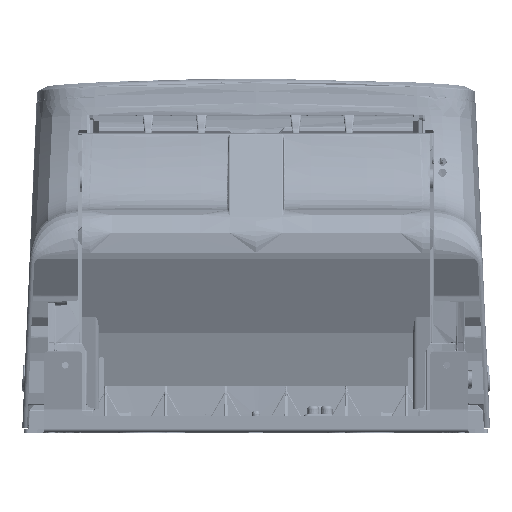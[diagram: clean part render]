
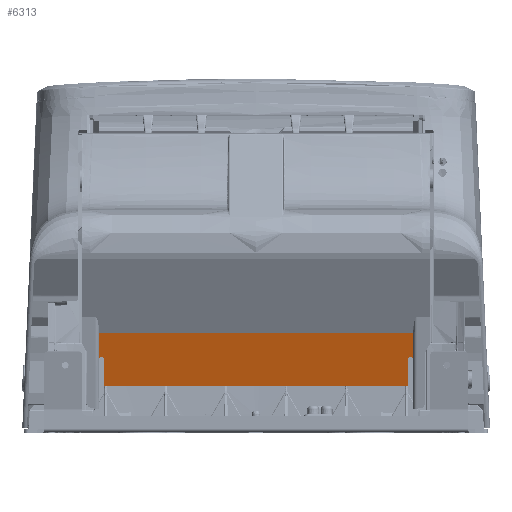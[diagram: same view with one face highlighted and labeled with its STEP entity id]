
A CAD part, front view. The second image highlights one B-rep face of the part: STEP entity #6313.
In plain terms, the highlighted planar face has unit normal (0, -0.954, -0.299).
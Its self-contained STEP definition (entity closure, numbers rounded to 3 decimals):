
#6313 = ADVANCED_FACE ( 'NONE', ( #231792 ), #139258, .T. ) ;
#27853 = CARTESIAN_POINT ( 'NONE',  ( -112.643, -168.608, 55.327 ) ) ;
#29847 = CARTESIAN_POINT ( 'NONE',  ( 110.937, -168.126, 53.789 ) ) ;
#35270 = VERTEX_POINT ( 'NONE', #130237 ) ;
#37268 = CARTESIAN_POINT ( 'NONE',  ( -114.756, -168.309, 54.374 ) ) ;
#48150 = ORIENTED_EDGE ( 'NONE', *, *, #149469, .F. ) ;
#61496 = CARTESIAN_POINT ( 'NONE',  ( 110.9, -161.884, 33.87 ) ) ;
#78137 = DIRECTION ( 'NONE',  ( 1., 0., 0. ) ) ;
#89495 = B_SPLINE_CURVE_WITH_KNOTS ( 'NONE', 3,
 ( #37268, #419660, #613990, #279490, #569332, #607723, #566194, #324126, #27853, #177576, #228550, #422779, #180709, #620267, #378156, #132860, #572476, #136012 ),
 .UNSPECIFIED., .F., .F.,
 ( 4, 2, 2, 2, 2, 2, 2, 2, 4 ),
 ( 0., 0.125, 0.25, 0.375, 0.5, 0.625, 0.75, 0.875, 1. ),
 .UNSPECIFIED. ) ;
#95484 = DIRECTION ( 'NONE',  ( 1., 0., 0. ) ) ;
#103235 = EDGE_CURVE ( 'NONE', #568988, #523790, #398669, .T. ) ;
#119195 = CARTESIAN_POINT ( 'NONE',  ( 112., -168.544, 55.122 ) ) ;
#125475 = CARTESIAN_POINT ( 'NONE',  ( 111.081, -168.254, 54.198 ) ) ;
#128614 = CARTESIAN_POINT ( 'NONE',  ( 114.152, -168.507, 55.005 ) ) ;
#128944 = ORIENTED_EDGE ( 'NONE', *, *, #491053, .T. ) ;
#130237 = CARTESIAN_POINT ( 'NONE',  ( 110.9, -161.884, 33.87 ) ) ;
#132860 = CARTESIAN_POINT ( 'NONE',  ( -110.936, -168.126, 53.789 ) ) ;
#132969 = DIRECTION ( 'NONE',  ( 0., 0.299, -0.954 ) ) ;
#134561 = ORIENTED_EDGE ( 'NONE', *, *, #319348, .F. ) ;
#136012 = CARTESIAN_POINT ( 'NONE',  ( -110.9, -167.992, 53.361 ) ) ;
#136165 = ORIENTED_EDGE ( 'NONE', *, *, #258684, .F. ) ;
#139258 = PLANE ( 'NONE',  #486960 ) ;
#139862 = CARTESIAN_POINT ( 'NONE',  ( -110.9, -167.992, 53.361 ) ) ;
#140162 = CARTESIAN_POINT ( 'NONE',  ( -110.9, -161.884, 33.87 ) ) ;
#149469 = EDGE_CURVE ( 'NONE', #397829, #598698, #492063, .T. ) ;
#155738 = VECTOR ( 'NONE', #431552, 1000. ) ;
#156569 = DIRECTION ( 'NONE',  ( -0.004, 0.299, -0.954 ) ) ;
#157620 = EDGE_CURVE ( 'NONE', #580773, #523790, #187989, .T. ) ;
#170143 = CARTESIAN_POINT ( 'NONE',  ( 113.539, -168.592, 55.278 ) ) ;
#173444 = CARTESIAN_POINT ( 'NONE',  ( 114.756, -168.309, 54.374 ) ) ;
#176921 = CARTESIAN_POINT ( 'NONE',  ( -114.839, -174.111, 72.888 ) ) ;
#177576 = CARTESIAN_POINT ( 'NONE',  ( -112.206, -168.572, 55.212 ) ) ;
#179565 = CARTESIAN_POINT ( 'NONE',  ( 114.64, -168.368, 54.56 ) ) ;
#180709 = CARTESIAN_POINT ( 'NONE',  ( -111.462, -168.422, 54.733 ) ) ;
#187989 = B_SPLINE_CURVE_WITH_KNOTS ( 'NONE', 3,
 ( #466345, #615977, #29847, #125475, #514122, #224273, #268960, #119195, #313606, #612849, #370756, #364509, #170143, #463225, #128614, #507866, #179565, #373866 ),
 .UNSPECIFIED., .F., .F.,
 ( 4, 2, 2, 2, 2, 2, 2, 2, 4 ),
 ( 0., 0.125, 0.25, 0.375, 0.5, 0.625, 0.75, 0.875, 1. ),
 .UNSPECIFIED. ) ;
#194958 = ORIENTED_EDGE ( 'NONE', *, *, #547701, .T. ) ;
#209813 = ORIENTED_EDGE ( 'NONE', *, *, #433549, .T. ) ;
#214629 = CARTESIAN_POINT ( 'NONE',  ( 114.839, -174.111, 72.888 ) ) ;
#224273 = CARTESIAN_POINT ( 'NONE',  ( 111.461, -168.421, 54.732 ) ) ;
#228550 = CARTESIAN_POINT ( 'NONE',  ( -112.002, -168.544, 55.122 ) ) ;
#231792 = FACE_OUTER_BOUND ( 'NONE', #518278, .T. ) ;
#240459 = CARTESIAN_POINT ( 'NONE',  ( -110.9, -161.884, 33.87 ) ) ;
#255898 = DIRECTION ( 'NONE',  ( 0., -0.299, 0.954 ) ) ;
#258684 = EDGE_CURVE ( 'NONE', #595273, #402179, #622774, .T. ) ;
#268960 = CARTESIAN_POINT ( 'NONE',  ( 111.625, -168.468, 54.879 ) ) ;
#275714 = LINE ( 'NONE', #176921, #630480 ) ;
#279490 = CARTESIAN_POINT ( 'NONE',  ( -114.154, -168.507, 55.004 ) ) ;
#288964 = ORIENTED_EDGE ( 'NONE', *, *, #103235, .F. ) ;
#303714 = LINE ( 'NONE', #61496, #331813 ) ;
#313606 = CARTESIAN_POINT ( 'NONE',  ( 112.205, -168.572, 55.212 ) ) ;
#319348 = EDGE_CURVE ( 'NONE', #598698, #568988, #275714, .T. ) ;
#324126 = CARTESIAN_POINT ( 'NONE',  ( -112.868, -168.615, 55.35 ) ) ;
#327253 = CARTESIAN_POINT ( 'NONE',  ( -110.9, -161.884, 33.87 ) ) ;
#331813 = VECTOR ( 'NONE', #255898, 1000. ) ;
#333665 = DIRECTION ( 'NONE',  ( 0., -0.954, -0.299 ) ) ;
#347964 = CARTESIAN_POINT ( 'NONE',  ( 110.9, -167.992, 53.361 ) ) ;
#351061 = ORIENTED_EDGE ( 'NONE', *, *, #157620, .T. ) ;
#358794 = VECTOR ( 'NONE', #95484, 1000. ) ;
#364509 = CARTESIAN_POINT ( 'NONE',  ( 113.319, -168.607, 55.325 ) ) ;
#370543 = VECTOR ( 'NONE', #156569, 1000. ) ;
#370756 = CARTESIAN_POINT ( 'NONE',  ( 112.866, -168.615, 55.349 ) ) ;
#373866 = CARTESIAN_POINT ( 'NONE',  ( 114.756, -168.309, 54.374 ) ) ;
#378156 = CARTESIAN_POINT ( 'NONE',  ( -111.082, -168.254, 54.199 ) ) ;
#388601 = LINE ( 'NONE', #140162, #358794 ) ;
#397829 = VERTEX_POINT ( 'NONE', #600482 ) ;
#398669 = LINE ( 'NONE', #592984, #370543 ) ;
#402179 = VERTEX_POINT ( 'NONE', #139862 ) ;
#407069 = VECTOR ( 'NONE', #488918, 1000. ) ;
#419660 = CARTESIAN_POINT ( 'NONE',  ( -114.641, -168.367, 54.559 ) ) ;
#422779 = CARTESIAN_POINT ( 'NONE',  ( -111.626, -168.468, 54.881 ) ) ;
#431552 = DIRECTION ( 'NONE',  ( 0., -0.299, 0.954 ) ) ;
#433549 = EDGE_CURVE ( 'NONE', #397829, #402179, #89495, .T. ) ;
#463225 = CARTESIAN_POINT ( 'NONE',  ( 113.959, -168.542, 55.117 ) ) ;
#466345 = CARTESIAN_POINT ( 'NONE',  ( 110.9, -167.992, 53.361 ) ) ;
#470726 = CARTESIAN_POINT ( 'NONE',  ( -114.9, -174.111, 72.888 ) ) ;
#486960 = AXIS2_PLACEMENT_3D ( 'NONE', #470726, #333665, #132969 ) ;
#488918 = DIRECTION ( 'NONE',  ( -0.004, -0.299, 0.954 ) ) ;
#491053 = EDGE_CURVE ( 'NONE', #595273, #35270, #388601, .T. ) ;
#492063 = LINE ( 'NONE', #590741, #407069 ) ;
#507866 = CARTESIAN_POINT ( 'NONE',  ( 114.496, -168.419, 54.724 ) ) ;
#514122 = CARTESIAN_POINT ( 'NONE',  ( 111.186, -168.313, 54.387 ) ) ;
#518278 = EDGE_LOOP ( 'NONE', ( #128944, #194958, #351061, #288964, #134561, #48150, #209813, #136165 ) ) ;
#523790 = VERTEX_POINT ( 'NONE', #173444 ) ;
#547701 = EDGE_CURVE ( 'NONE', #35270, #580773, #303714, .T. ) ;
#566194 = CARTESIAN_POINT ( 'NONE',  ( -113.32, -168.607, 55.325 ) ) ;
#568988 = VERTEX_POINT ( 'NONE', #214629 ) ;
#569332 = CARTESIAN_POINT ( 'NONE',  ( -113.96, -168.542, 55.116 ) ) ;
#572476 = CARTESIAN_POINT ( 'NONE',  ( -110.9, -168.06, 53.578 ) ) ;
#580773 = VERTEX_POINT ( 'NONE', #347964 ) ;
#590741 = CARTESIAN_POINT ( 'NONE',  ( -114.756, -168.309, 54.374 ) ) ;
#592752 = CARTESIAN_POINT ( 'NONE',  ( -114.839, -174.111, 72.888 ) ) ;
#592984 = CARTESIAN_POINT ( 'NONE',  ( 114.839, -174.111, 72.888 ) ) ;
#595273 = VERTEX_POINT ( 'NONE', #327253 ) ;
#598698 = VERTEX_POINT ( 'NONE', #592752 ) ;
#600482 = CARTESIAN_POINT ( 'NONE',  ( -114.756, -168.309, 54.374 ) ) ;
#607723 = CARTESIAN_POINT ( 'NONE',  ( -113.541, -168.592, 55.278 ) ) ;
#612849 = CARTESIAN_POINT ( 'NONE',  ( 112.642, -168.608, 55.327 ) ) ;
#613990 = CARTESIAN_POINT ( 'NONE',  ( -114.497, -168.418, 54.722 ) ) ;
#615977 = CARTESIAN_POINT ( 'NONE',  ( 110.9, -168.059, 53.577 ) ) ;
#620267 = CARTESIAN_POINT ( 'NONE',  ( -111.187, -168.314, 54.389 ) ) ;
#622774 = LINE ( 'NONE', #240459, #155738 ) ;
#630480 = VECTOR ( 'NONE', #78137, 1000. ) ;
